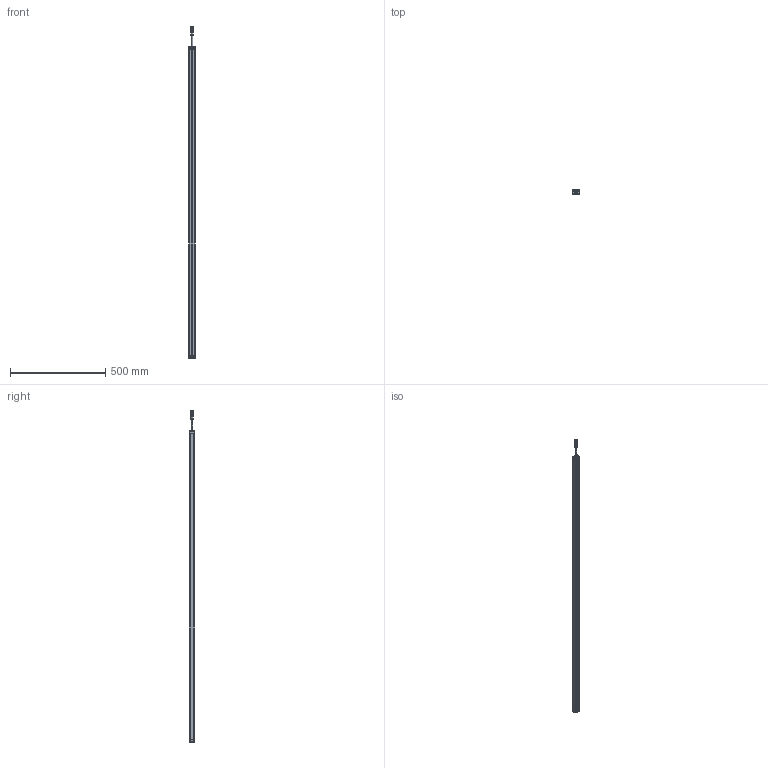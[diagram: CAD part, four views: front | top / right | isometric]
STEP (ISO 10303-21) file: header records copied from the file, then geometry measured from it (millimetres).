
FILE_DESCRIPTION((''),'2;1');
FILE_NAME('SMT1-CGQ_ASM','2025-08-08T08:50:13',('Administrator'),(''),'CREO PARAMETRIC BY PTC INC, 2016510','CREO PARAMETRIC BY PTC INC, 2016510','');
FILE_SCHEMA(('CONFIG_CONTROL_DESIGN'));
Length unit declared in the file: millimetre
Products named in the file (7): SMT1-XINGCAI-V1; SMT1-SDG-V1; SMT1-XDG-V1; M12-CHATOU; ST3X18; CT4-LVGUANGBAN; SMT1-CGQ_ASM
Assembly tree (13 placements, depth 2):
  SMT1-CGQ_ASM
    SMT1-XINGCAI-V1
    SMT1-SDG-V1
    SMT1-XDG-V1
    M12-CHATOU
    ST3X18  x8
    CT4-LVGUANGBAN
Bounding box: 33 x 28.02 x 1739.5 mm (x, y, z)
Volume: 1259220 mm3; surface area: 402290.1 mm2
Topology: 13 solids, 13 shells, 712 faces, 1868 edges, 1200 vertices
Faces by surface type: plane 382, cylinder 184, extrusion 86, sphere 32, cone 20, bspline 8
Entity records: 18128 total; most frequent: CARTESIAN_POINT 4347, ORIENTED_EDGE 2916, DIRECTION 2580, EDGE_CURVE 1458, VECTOR 1036, VERTEX_POINT 955, LINE 950, AXIS2_PLACEMENT_3D 772
